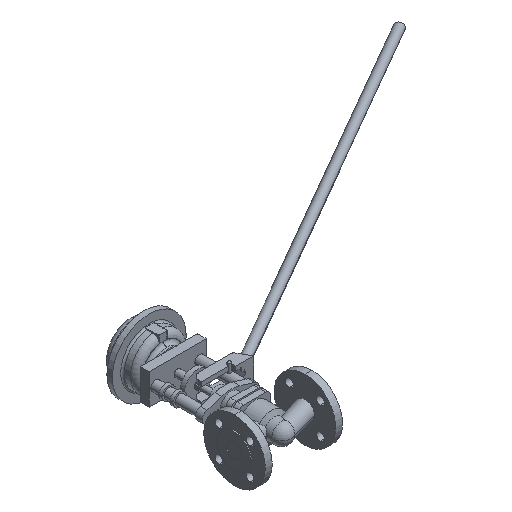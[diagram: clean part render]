
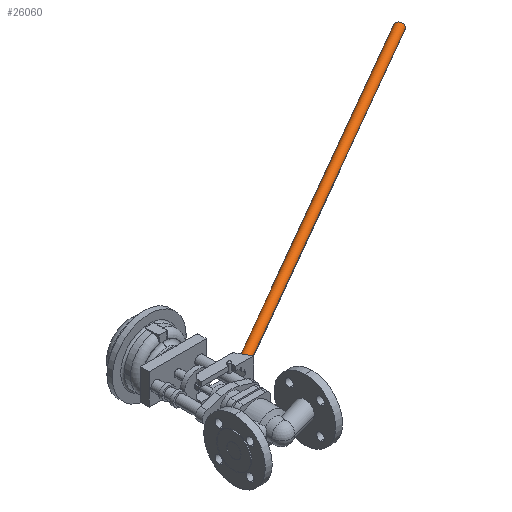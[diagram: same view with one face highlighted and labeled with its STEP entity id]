
A CAD part, isometric view. The second image highlights one B-rep face of the part: STEP entity #26060.
In plain terms, the highlighted cylindrical face has radius 10 mm (diameter 20 mm), a partial arc.
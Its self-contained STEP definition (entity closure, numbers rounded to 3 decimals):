
#25650=CARTESIAN_POINT('',(593.037,397.76,
0.));
#25660=DIRECTION('',(-0.866,-0.5,0.));
#25670=DIRECTION('',(0.5,-0.866,0.));
#25680=AXIS2_PLACEMENT_3D('',#25650,#25660,#25670);
#25690=CYLINDRICAL_SURFACE('',#25680,10.);
#25700=CARTESIAN_POINT('',(588.037,406.42,
0.));
#25710=DIRECTION('',(-0.866,-0.5,0.));
#25720=VECTOR('',#25710,1.);
#25730=LINE('',#25700,#25720);
#25740=CARTESIAN_POINT('',(1018.884,655.17,
0.));
#25750=VERTEX_POINT('',#25740);
#25760=CARTESIAN_POINT('',(170.179,165.17,
0.));
#25770=VERTEX_POINT('',#25760);
#25780=EDGE_CURVE('',#25750,#25770,#25730,.T.);
#25790=ORIENTED_EDGE('',*,*,#25780,.T.);
#25800=CARTESIAN_POINT('',(1023.884,646.51,
0.));
#25810=DIRECTION('',(0.866,0.5,0.));
#25820=DIRECTION('',(0.5,-0.866,0.));
#25830=AXIS2_PLACEMENT_3D('',#25800,#25810,#25820);
#25840=CIRCLE('',#25830,10.);
#25850=CARTESIAN_POINT('',(1028.884,637.849,
0.));
#25860=VERTEX_POINT('',#25850);
#25870=EDGE_CURVE('',#25750,#25860,#25840,.T.);
#25880=ORIENTED_EDGE('',*,*,#25870,.F.);
#25890=CARTESIAN_POINT('',(598.037,389.099,
0.));
#25900=DIRECTION('',(-0.866,-0.5,0.));
#25910=VECTOR('',#25900,1.);
#25920=LINE('',#25890,#25910);
#25930=CARTESIAN_POINT('',(180.179,147.849,
0.));
#25940=VERTEX_POINT('',#25930);
#25950=EDGE_CURVE('',#25860,#25940,#25920,.T.);
#25960=ORIENTED_EDGE('',*,*,#25950,.F.);
#25970=CARTESIAN_POINT('',(175.179,156.51,
0.));
#25980=DIRECTION('',(-0.866,-0.5,0.));
#25990=DIRECTION('',(0.5,-0.866,
0.));
#26000=AXIS2_PLACEMENT_3D('',#25970,#25980,#25990);
#26010=CIRCLE('',#26000,10.);
#26020=EDGE_CURVE('',#25940,#25770,#26010,.T.);
#26030=ORIENTED_EDGE('',*,*,#26020,.F.);
#26040=EDGE_LOOP('',(#26030,#25960,#25880,#25790));
#26050=FACE_OUTER_BOUND('',#26040,.T.);
#26060=ADVANCED_FACE('',(#26050),#25690,.T.);
